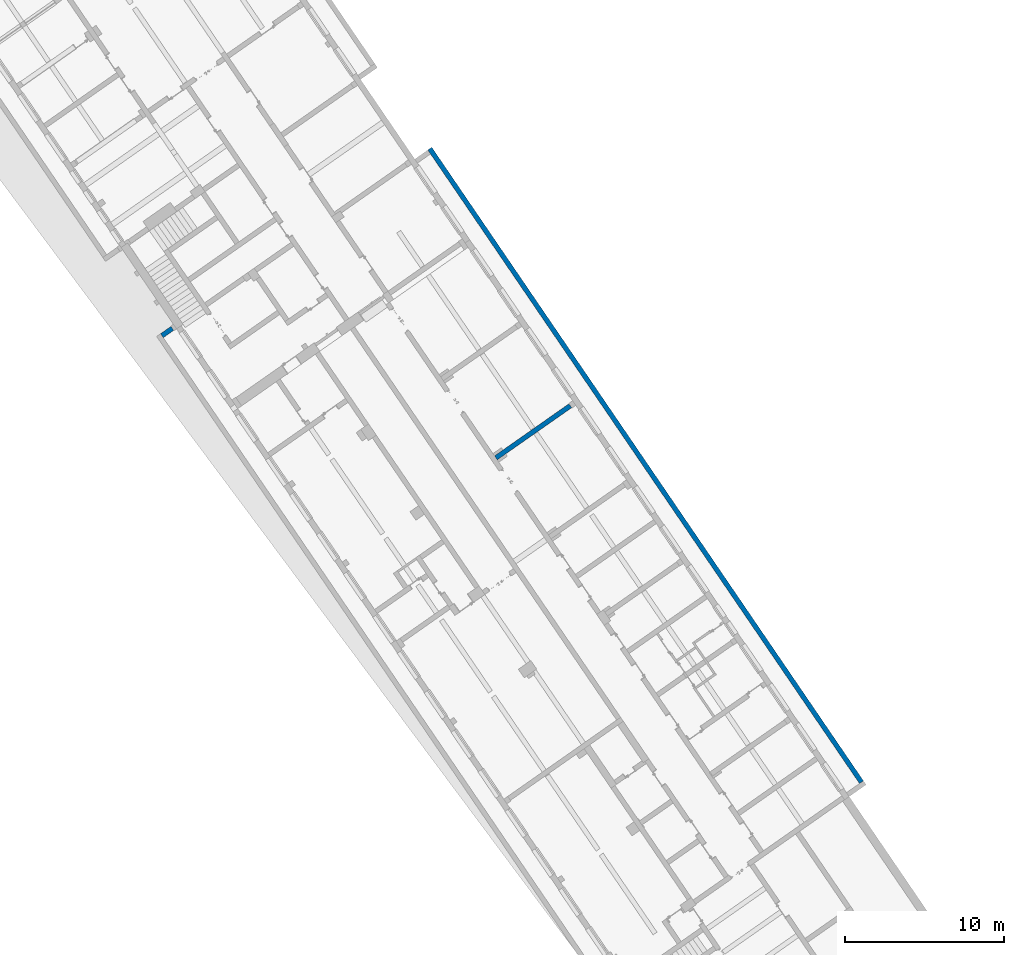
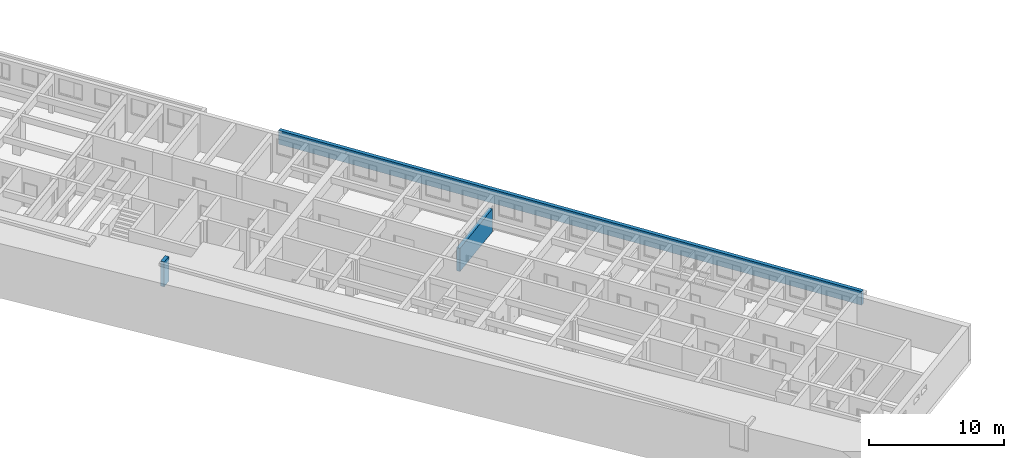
# One storey, part 28 of 112: 3 walls.
"""IFC2X3 building model written with IfcOpenShell, lengths in millimetres."""

from ifc_helpers import new_model, entity, si_unit, converted_unit, derived_unit, direction, frame, origin, place, context, subcontext, project, spatial, polyline, outline, extrude, material, layer, layer_set, layer_usage, type_object, element, save


model = new_model("IFC2X3")

# Units and contexts
model_context = context("Model", 3, precision=0.01, world=origin(), true_north=direction((6.123031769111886e-17, 1.0)))
body_context = subcontext(model_context, "Body", "Model", "MODEL_VIEW")
ifc_project = project(units=[si_unit("LENGTHUNIT", "METRE", prefix="MILLI"), si_unit("AREAUNIT", "SQUARE_METRE"), si_unit("VOLUMEUNIT", "CUBIC_METRE"), converted_unit("PLANEANGLEUNIT", "DEGREE", entity("IfcRatioMeasure", 0.017453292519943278), si_unit("PLANEANGLEUNIT", "RADIAN"), dimensions=[0, 0, 0, 0, 0, 0, 0]), si_unit("MASSUNIT", "GRAM", prefix="KILO"), derived_unit("MASSDENSITYUNIT", [(si_unit("MASSUNIT", "GRAM", prefix="KILO"), 1), (si_unit("LENGTHUNIT", "METRE"), -3)]), derived_unit("MOMENTOFINERTIAUNIT", [(si_unit("LENGTHUNIT", "METRE"), 4)]), si_unit("TIMEUNIT", "SECOND"), si_unit("FREQUENCYUNIT", "HERTZ"), si_unit("THERMODYNAMICTEMPERATUREUNIT", "DEGREE_CELSIUS"), derived_unit("THERMALTRANSMITTANCEUNIT", [(si_unit("MASSUNIT", "GRAM", prefix="KILO"), 1), (si_unit("THERMODYNAMICTEMPERATUREUNIT", "KELVIN"), -1), (si_unit("TIMEUNIT", "SECOND"), -3)]), derived_unit("THERMALCONDUCTANCEUNIT", [(si_unit("MASSUNIT", "GRAM", prefix="KILO"), 1), (si_unit("LENGTHUNIT", "METRE"), 1), (si_unit("THERMODYNAMICTEMPERATUREUNIT", "KELVIN"), -1), (si_unit("TIMEUNIT", "SECOND"), -3)]), derived_unit("VOLUMETRICFLOWRATEUNIT", [(si_unit("LENGTHUNIT", "METRE"), 3), (si_unit("TIMEUNIT", "SECOND"), -1)]), derived_unit("MASSFLOWRATEUNIT", [(si_unit("MASSUNIT", "GRAM", prefix="KILO"), 1), (si_unit("TIMEUNIT", "SECOND"), -1)]), derived_unit("ROTATIONALFREQUENCYUNIT", [(si_unit("TIMEUNIT", "SECOND"), -1)]), si_unit("ELECTRICCURRENTUNIT", "AMPERE"), si_unit("ELECTRICVOLTAGEUNIT", "VOLT"), si_unit("POWERUNIT", "WATT"), converted_unit("FORCEUNIT", "KIP", entity("IfcRatioMeasure", 2.088543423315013e-05), si_unit("FORCEUNIT", "NEWTON"), dimensions=[1, 1, -2, 0, 0, 0, 0]), si_unit("ILLUMINANCEUNIT", "LUX"), si_unit("LUMINOUSFLUXUNIT", "LUMEN"), si_unit("LUMINOUSINTENSITYUNIT", "CANDELA"), derived_unit("USERDEFINED", [(si_unit("MASSUNIT", "GRAM", prefix="KILO"), -1), (si_unit("LENGTHUNIT", "METRE"), -2), (si_unit("TIMEUNIT", "SECOND"), 3), (si_unit("LUMINOUSFLUXUNIT", "LUMEN"), 1)]), derived_unit("USERDEFINED", [(si_unit("MASSUNIT", "GRAM", prefix="KILO"), 1), (si_unit("LENGTHUNIT", "METRE"), 3), (si_unit("TIMEUNIT", "SECOND"), -3), (si_unit("ELECTRICCURRENTUNIT", "AMPERE"), -2)]), derived_unit("USERDEFINED", [(si_unit("LENGTHUNIT", "METRE"), 2), (si_unit("TIMEUNIT", "SECOND"), -2)]), derived_unit("SOUNDPOWERUNIT", [(si_unit("MASSUNIT", "GRAM", prefix="KILO"), 1), (si_unit("LENGTHUNIT", "METRE"), 2), (si_unit("TIMEUNIT", "SECOND"), -3)]), derived_unit("SOUNDPRESSUREUNIT", [(si_unit("MASSUNIT", "GRAM", prefix="KILO"), 1), (si_unit("LENGTHUNIT", "METRE"), -1), (si_unit("TIMEUNIT", "SECOND"), -2)]), derived_unit("LINEARVELOCITYUNIT", [(si_unit("LENGTHUNIT", "METRE"), 1), (si_unit("TIMEUNIT", "SECOND"), -1)]), si_unit("PRESSUREUNIT", "PASCAL"), derived_unit("USERDEFINED", [(si_unit("LENGTHUNIT", "METRE"), -2), (si_unit("MASSUNIT", "GRAM", prefix="KILO"), 1), (si_unit("TIMEUNIT", "SECOND"), -2)]), derived_unit("LINEARFORCEUNIT", [(si_unit("MASSUNIT", "GRAM", prefix="KILO"), 1), (si_unit("LENGTHUNIT", "METRE"), 1), (si_unit("TIMEUNIT", "SECOND"), -2), (si_unit("LENGTHUNIT", "METRE"), -1)]), derived_unit("PLANARFORCEUNIT", [(si_unit("MASSUNIT", "GRAM", prefix="KILO"), 1), (si_unit("LENGTHUNIT", "METRE"), 1), (si_unit("TIMEUNIT", "SECOND"), -2), (si_unit("LENGTHUNIT", "METRE"), -2)]), derived_unit("SPECIFICHEATCAPACITYUNIT", [(si_unit("LENGTHUNIT", "METRE"), 2), (si_unit("TIMEUNIT", "SECOND"), -2), (si_unit("THERMODYNAMICTEMPERATUREUNIT", "KELVIN"), -1)]), derived_unit("VAPORPERMEABILITYUNIT", [(si_unit("TIMEUNIT", "SECOND"), 1), (si_unit("LENGTHUNIT", "METRE"), -1)]), derived_unit("DYNAMICVISCOSITYUNIT", [(si_unit("MASSUNIT", "GRAM", prefix="KILO"), 1), (si_unit("LENGTHUNIT", "METRE"), -1), (si_unit("TIMEUNIT", "SECOND"), -1)]), derived_unit("THERMALEXPANSIONCOEFFICIENTUNIT", [(si_unit("THERMODYNAMICTEMPERATUREUNIT", "KELVIN"), -1)])], contexts=[model_context])

# Site, building, storey
site_placement = place(None, frame((0.0, 0.0, 0.0), z_axis=(0.0, 0.0, 1.0), x_axis=(0.8191520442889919, 0.5735764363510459, 0.0)))
site = spatial("IfcSite", under=ifc_project, at=site_placement, Name="Default", CompositionType="ELEMENT")
building_placement = place(site_placement, origin())
building = spatial("IfcBuilding", under=site, at=building_placement, CompositionType="ELEMENT")
storey_placement = place(building_placement, frame((0.0, 0.0, -3600.0)))
storey = spatial("IfcBuildingStorey", under=building, at=storey_placement, Name="0.UG -3.60", CompositionType="ELEMENT", Elevation=-3600.0000000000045)

# Walls
ifc_material = material(Name="Analytical Wall Surface_CJC")
ifc_layer_1 = layer(ifc_material, 300.0)
ifc_layer_set_1 = layer_set([ifc_layer_1], Name="Basic Wall:Wand_Innen_30")
ifc_layer_usage_1 = layer_usage(ifc_layer_set_1, "AXIS2", "NEGATIVE", 150.0)
wall_type_1 = type_object("IfcWallType", Name="Basic Wall:Wand_Innen_30", PredefinedType="STANDARD", material=ifc_layer_set_1)
wall_1_placement = place(storey_placement, frame((-205706.16817612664, 91396.35891435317, 300.0), z_axis=(0.0, 0.0, 1.0), x_axis=(-1.0, 0.0, 0.0)))
element("IfcWallStandardCase", 1, at=wall_1_placement, inside=storey, type_object=wall_type_1, material=ifc_layer_usage_1, Name="Basic Wall:Wand_Innen_30", ObjectType="Basic Wall:Wand_Innen_30", context=body_context, shape_type="SweptSolid", body=[
    extrude(outline(polyline([(5698.57992198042, -150.0), (5702.399107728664, 150.0), (5050.487489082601, 150.0), (0.0, 150.0), (0.0, -150.0), (5050.487489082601, -150.0), (5698.57992198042, -150.0)])), origin(), (0.0, 0.0, 1.0), 2100.0),
])
ifc_layer_2 = layer(ifc_material, 300.0)
ifc_layer_set_2 = layer_set([ifc_layer_2], Name="Basic Wall:Wand_Aussen_30")
ifc_layer_usage_2 = layer_usage(ifc_layer_set_2, "AXIS2", "NEGATIVE", 150.0)
wall_type_2 = type_object("IfcWallType", Name="Basic Wall:Wand_Aussen_30", PredefinedType="STANDARD", material=ifc_layer_set_2)
wall_2_placement = place(storey_placement, frame((-224176.6625115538, 109696.35891435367, 1600.0)))
element("IfcWallStandardCase", 2, at=wall_2_placement, inside=storey, type_object=wall_type_2, material=ifc_layer_usage_2, Name="Basic Wall:Wand_Aussen_30", ObjectType="Basic Wall:Wand_Aussen_30", context=body_context, shape_type="SweptSolid", body=[
    extrude(outline(polyline([(803.8840106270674, -150.0), (803.8840106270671, 150.0), (796.1482471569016, 150.0), (3.819185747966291, 150.0), (0.0, -150.0), (796.1482471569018, -150.0), (803.8840106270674, -150.0)])), origin(), (0.0, 0.0, 1.0), 2250.0000000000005),
])
ifc_layer_usage_3 = layer_usage(ifc_layer_set_2, "AXIS2", "POSITIVE", -150.0)
wall_3_placement = place(storey_placement, frame((-204285.77713757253, 61569.449476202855, 1600.0), z_axis=(0.0, 0.0, 1.0), x_axis=(0.012729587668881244, 0.9999189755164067, 0.0)))
element("IfcWallStandardCase", 3, at=wall_3_placement, inside=storey, type_object=wall_type_2, material=ifc_layer_usage_3, Name="Basic Wall:Wand_Aussen_30", ObjectType="Basic Wall:Wand_Aussen_30", context=body_context, shape_type="SweptSolid", body=[
    extrude(outline(polyline([(48107.7167792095, -150.0), (48103.89759346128, 150.0), (47803.87328414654, 150.0), (0.0, 150.0), (3.819185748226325, -150.0), (48107.7167792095, -150.0)])), origin(), (0.0, 0.0, 1.0), 1250.0),
])

save(model, "model.ifc")
